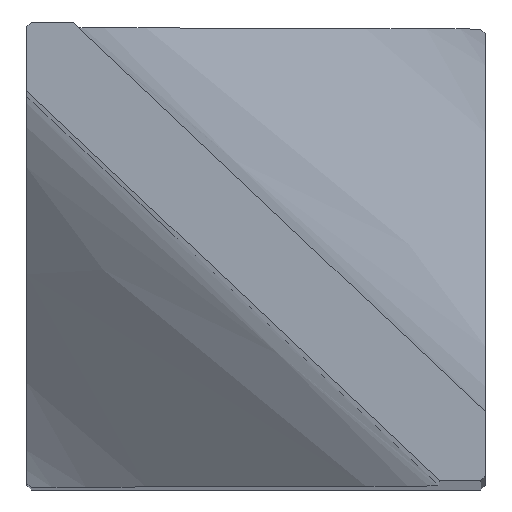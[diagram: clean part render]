
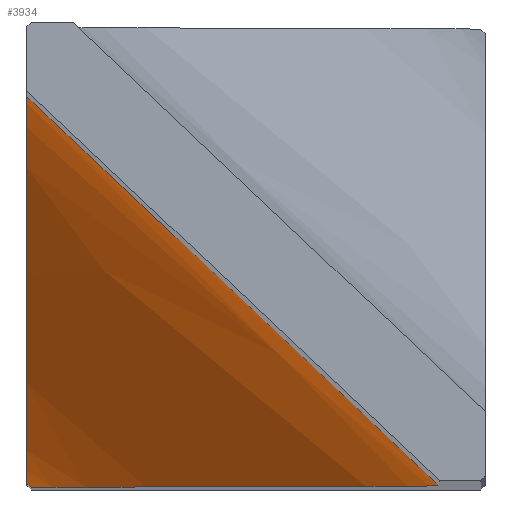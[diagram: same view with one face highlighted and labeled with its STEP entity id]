
A CAD part, top view. The second image highlights one B-rep face of the part: STEP entity #3934.
In plain terms, the highlighted free-form (B-spline) face has degree [3, 3] with [8, 4] control points.
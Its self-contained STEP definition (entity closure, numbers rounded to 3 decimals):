
#1427=CARTESIAN_POINT('',(-10.,-9.8,63.038));
#1428=CARTESIAN_POINT('',(-9.967,-9.833,
63.027));
#1429=CARTESIAN_POINT('',(-9.9,-9.9,
63.005));
#1430=CARTESIAN_POINT('',(-9.833,-9.967,
62.982));
#1431=CARTESIAN_POINT('',(-9.8,-10.,62.971));
#1433=CARTESIAN_POINT('',(-10.,7.,104.938));
#1434=CARTESIAN_POINT('',(-10.,7.,103.619));
#1435=CARTESIAN_POINT('',(-10.,6.769,100.859));
#1436=CARTESIAN_POINT('',(-10.,5.585,96.314));
#1437=CARTESIAN_POINT('',(-10.,3.573,91.492));
#1438=CARTESIAN_POINT('',(-10.,0.707,86.181));
#1439=CARTESIAN_POINT('',(-10.,-2.507,80.791));
#1440=CARTESIAN_POINT('',(-10.,-5.332,75.836));
#1441=CARTESIAN_POINT('',(-10.,-7.506,71.352));
#1442=CARTESIAN_POINT('',(-10.,-9.041,67.123));
#1443=CARTESIAN_POINT('',(-10.,-9.625,64.382));
#1444=CARTESIAN_POINT('',(-10.,-9.8,63.038));
#1600=CARTESIAN_POINT('',(-9.8,-10.,62.971));
#1601=CARTESIAN_POINT('',(-9.233,-10.,67.219));
#1602=CARTESIAN_POINT('',(-5.407,-10.,76.206));
#1603=CARTESIAN_POINT('',(4.001,-10.,89.568));
#1604=CARTESIAN_POINT('',(8.,-10.,99.56));
#1605=CARTESIAN_POINT('',(8.,-10.,104.938));
#1615=DIRECTION('',(-0.727,0.687,0.));
#1616=VECTOR('',#1615,24.759);
#1617=CARTESIAN_POINT('',(8.,-10.,104.938));
#1618=LINE('',#1617,#1616);
#1788=CARTESIAN_POINT('',(8.,-10.,104.938));
#1789=CARTESIAN_POINT('',(-10.,7.,104.938));
#1790=VERTEX_POINT('',#1788);
#1791=VERTEX_POINT('',#1789);
#1792=VERTEX_POINT('',#1427);
#1793=VERTEX_POINT('',#1431);
#3892=CARTESIAN_POINT('',(-8.822,-10.992,
62.509));
#3893=CARTESIAN_POINT('',(-26.742,6.197,62.752));
#3894=CARTESIAN_POINT('',(-44.662,23.385,62.995));
#3895=CARTESIAN_POINT('',(-62.582,40.573,63.238));
#3896=CARTESIAN_POINT('',(-8.385,-10.927,
66.924));
#3897=CARTESIAN_POINT('',(-25.166,5.134,67.128));
#3898=CARTESIAN_POINT('',(-41.947,21.195,67.333));
#3899=CARTESIAN_POINT('',(-58.727,37.256,67.538));
#3900=CARTESIAN_POINT('',(-5.685,-10.823,
73.582));
#3901=CARTESIAN_POINT('',(-20.649,3.44,73.724));
#3902=CARTESIAN_POINT('',(-35.614,17.703,73.867));
#3903=CARTESIAN_POINT('',(-50.579,31.966,74.01));
#3904=CARTESIAN_POINT('',(-0.297,-10.681,
82.438));
#3905=CARTESIAN_POINT('',(-12.761,1.121,82.505));
#3906=CARTESIAN_POINT('',(-25.225,12.923,82.571));
#3907=CARTESIAN_POINT('',(-37.689,24.725,82.637));
#3908=CARTESIAN_POINT('',(5.561,-10.529,92.064));
#3909=CARTESIAN_POINT('',(-4.148,-1.364,
92.091));
#3910=CARTESIAN_POINT('',(-13.858,7.801,92.118));
#3911=CARTESIAN_POINT('',(-23.567,16.966,92.144));
#3912=CARTESIAN_POINT('',(8.495,-10.413,99.702));
#3913=CARTESIAN_POINT('',(0.908,-3.248,
99.715));
#3914=CARTESIAN_POINT('',(-6.679,3.918,99.729));
#3915=CARTESIAN_POINT('',(-14.266,11.083,99.743));
#3916=CARTESIAN_POINT('',(8.354,-10.336,105.246));
#3917=CARTESIAN_POINT('',(2.193,-4.517,105.245));
#3918=CARTESIAN_POINT('',(-3.968,1.301,105.245));
#3919=CARTESIAN_POINT('',(-10.128,7.12,105.244));
#3920=CARTESIAN_POINT('',(8.348,-10.334,105.401));
#3921=CARTESIAN_POINT('',(2.227,-4.552,105.399));
#3922=CARTESIAN_POINT('',(-3.894,1.229,105.398));
#3923=CARTESIAN_POINT('',(-10.015,7.01,105.397));
#3924=B_SPLINE_SURFACE_WITH_KNOTS('',3,3,((#3892,#3893,#3894,#3895),(#3896,
#3897,#3898,#3899),(#3900,#3901,#3902,#3903),(#3904,#3905,#3906,#3907),(#3908,
#3909,#3910,#3911),(#3912,#3913,#3914,#3915),(#3916,#3917,#3918,#3919),(#3920,
#3921,#3922,#3923)),.UNSPECIFIED.,.F.,.F.,.F.,(4,1,1,1,1,4),(4,4),(
0.053,0.333,0.5,0.667,1.,
1.01),(-0.02,1.02),.UNSPECIFIED.);
#3925=ORIENTED_EDGE('',*,*,#3880,.F.);
#3927=ORIENTED_EDGE('',*,*,#3926,.F.);
#3929=ORIENTED_EDGE('',*,*,#3928,.F.);
#3931=ORIENTED_EDGE('',*,*,#3930,.F.);
#3932=EDGE_LOOP('',(#3925,#3927,#3929,#3931));
#3933=FACE_OUTER_BOUND('',#3932,.F.);
#3934=ADVANCED_FACE('',(#3933),#3924,.T.);
#1432=B_SPLINE_CURVE_WITH_KNOTS('',3,(#1427,#1428,#1429,#1430,#1431),
.UNSPECIFIED.,.F.,.F.,(4,1,4),(0.,0.5,1.),.UNSPECIFIED.);
#1445=B_SPLINE_CURVE_WITH_KNOTS('',3,(#1433,#1434,#1435,#1436,#1437,#1438,#1439,
#1440,#1441,#1442,#1443,#1444),.UNSPECIFIED.,.F.,.F.,(4,1,1,1,1,1,1,1,1,4),
(0.,0.111,0.222,0.333,0.444,
0.556,0.667,0.778,0.889,1.),
.UNSPECIFIED.);
#1606=B_SPLINE_CURVE_WITH_KNOTS('',3,(#1600,#1601,#1602,#1603,#1604,#1605),
.UNSPECIFIED.,.F.,.F.,(4,1,1,4),(0.,0.289,0.644,1.),
.UNSPECIFIED.);
#3880=EDGE_CURVE('',#1792,#1793,#1432,.T.);
#3926=EDGE_CURVE('',#1791,#1792,#1445,.T.);
#3928=EDGE_CURVE('',#1790,#1791,#1618,.T.);
#3930=EDGE_CURVE('',#1793,#1790,#1606,.T.);
